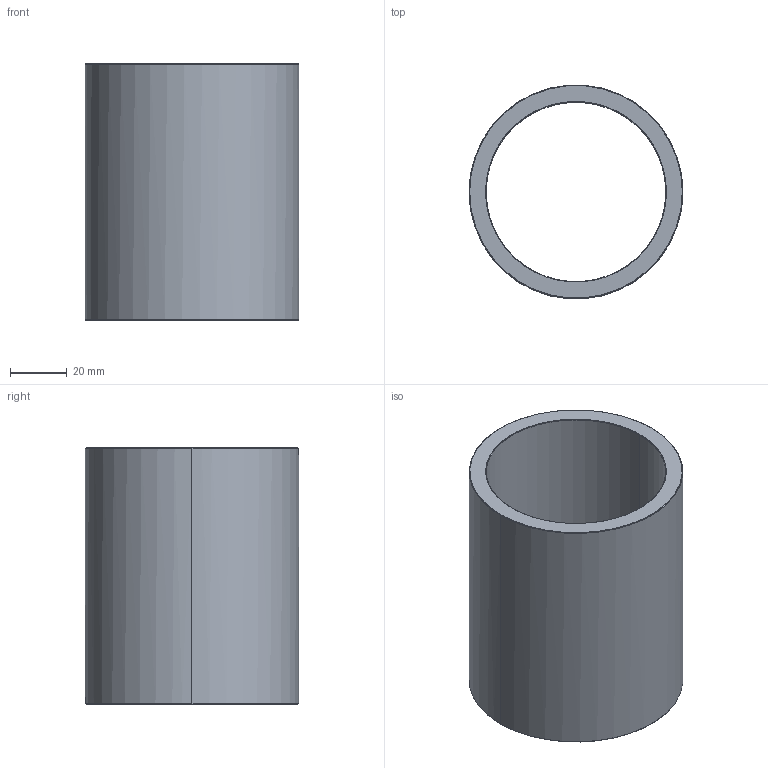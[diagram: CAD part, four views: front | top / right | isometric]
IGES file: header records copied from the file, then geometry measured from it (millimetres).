
Start section: Write IGES format                                    datakit 2008 (c)
Global section: file name: Unknown; native system: DATAKIT Converter; preprocessor: Unknown; author: Unknown; organization: Unknown; date: 950613.180003; units: millimetre
Bounding box: 75 x 74.81 x 90 mm (x, y, z)
Surface area: 41518.2 mm2 (no closed solid volume)
Topology: 0 solids, 0 shells, 14 faces, 56 edges, 56 vertices
Faces by surface type: revolution 12, bspline 2
